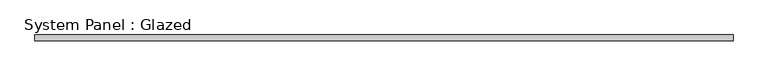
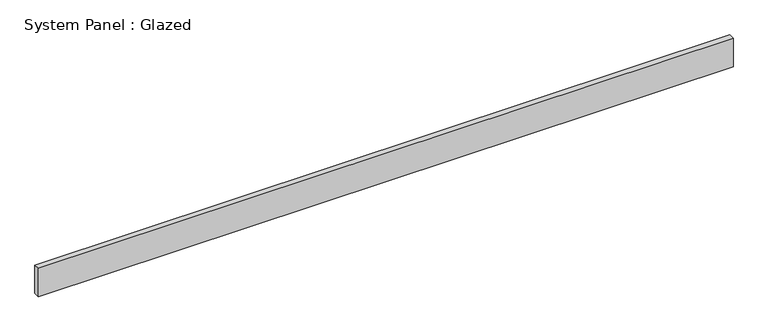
"""IFC4 building model written with IfcOpenShell, lengths in millimetres: plate geometry, System Panel : Glazed."""

import ifcopenshell
import ifcopenshell.guid

model = None  # the IFC model being written
_history = None  # IfcOwnerHistory: only IFC2X3 demands one
_inside = {}  # id of a spatial element -> (the spatial element, [elements in it])
_under = {}  # id of a project, library or spatial element -> (it, [spatial elements below it])
_declared = {}  # id of a project -> (the project, [libraries it declares])
_typed = {}  # id of a type object -> (the type object, [elements of that type])
_made_of = {}  # id of a material, layer set ... -> (it, [elements and type objects made of it])


def new_model(schema):
    """Start an empty IFC model of exactly this schema.

    Asked for "IFC4X3", IfcOpenShell would pick the latest addendum, in which some entities
    have other attributes; the version numbers below select the first issue.
    IFC2X3 requires an IfcOwnerHistory on every rooted entity: one is made here for all.
    """
    global model, _history
    if schema == "IFC4X3":
        model = ifcopenshell.file(schema_version=(4, 3, 0, 0))
    else:
        model = ifcopenshell.file(schema=schema)
    _inside.clear()
    _under.clear()
    _declared.clear()
    _typed.clear()
    _made_of.clear()
    _history = None
    if model.schema == "IFC2X3":
        org = make("IfcOrganization", Name="unknown")
        user = make(
            "IfcPersonAndOrganization",
            ThePerson=make("IfcPerson", FamilyName="unknown"),
            TheOrganization=org,
        )
        app = make(
            "IfcApplication",
            ApplicationDeveloper=org,
            Version="unknown",
            ApplicationFullName="unknown",
            ApplicationIdentifier="unknown",
        )
        _history = make(
            "IfcOwnerHistory",
            OwningUser=user,
            OwningApplication=app,
            ChangeAction="ADDED",
            CreationDate=0,
        )
    return model


def make(cls, **values):
    """One entity of the class cls with the attributes given. An attribute that is None is left unset."""
    return model.create_entity(
        cls, **{name: value for name, value in values.items() if value is not None}
    )


def rooted(cls, **values):
    """An entity with a GlobalId (a new one), such as an element, a storey or a relation."""
    return make(cls, GlobalId=ifcopenshell.guid.new(), OwnerHistory=_history, **values)


def si_unit(unit_type, name, prefix=None):
    """IfcSIUnit, for example si_unit("LENGTHUNIT", "METRE", prefix="MILLI")."""
    return make("IfcSIUnit", UnitType=unit_type, Prefix=prefix, Name=name)


def assignment(units):
    """IfcUnitAssignment: the units of a project."""
    return None if units is None else make("IfcUnitAssignment", Units=units)


def point(xyz):
    """IfcCartesianPoint."""
    return None if xyz is None else make("IfcCartesianPoint", Coordinates=xyz)


def direction(xyz):
    """IfcDirection."""
    return None if xyz is None else make("IfcDirection", DirectionRatios=xyz)


def frame(location, z_axis=None, x_axis=None):
    """IfcAxis2Placement3D, a coordinate frame: its origin and axes. An axis left out is left unset."""
    return make(
        "IfcAxis2Placement3D",
        Location=point(location),
        Axis=direction(z_axis),
        RefDirection=direction(x_axis),
    )


def origin():
    """The frame at (0, 0, 0) with its axes left unset."""
    return frame((0.0, 0.0, 0.0))


def origin_with_axes():
    """The frame at (0, 0, 0) with the z axis (0, 0, 1) and the x axis (1, 0, 0) written out."""
    return frame((0.0, 0.0, 0.0), z_axis=(0.0, 0.0, 1.0), x_axis=(1.0, 0.0, 0.0))


def place(relative_to, where):
    """IfcLocalPlacement: puts the frame where relative to a parent placement (None: the world)."""
    return make(
        "IfcLocalPlacement", PlacementRelTo=relative_to, RelativePlacement=where
    )


def context(
    kind, dimensions, precision=None, world=None, true_north=None, identifier=None
):
    """IfcGeometricRepresentationContext, for example the 3D "Model" context."""
    return make(
        "IfcGeometricRepresentationContext",
        ContextIdentifier=identifier,
        ContextType=kind,
        CoordinateSpaceDimension=dimensions,
        Precision=precision,
        WorldCoordinateSystem=world,
        TrueNorth=true_north,
    )


def project(units=None, contexts=None):
    """IfcProject with its units and contexts."""
    return rooted(
        "IfcProject",
        Name="project",
        RepresentationContexts=contexts,
        UnitsInContext=assignment(units),
    )


def spatial(cls, under=None, at=None, **own):
    """A site, building, storey or space (cls), placed at a placement, below another one or the project."""
    s = rooted(cls, ObjectPlacement=at, **own)
    if under is not None:
        _under.setdefault(under.id(), (under, []))[1].append(s)
    return s


def polyline(points):
    """IfcPolyline through the points."""
    return make("IfcPolyline", Points=[point(p) for p in points])


def outline(outer, holes=None, kind="AREA"):
    """IfcArbitraryClosedProfileDef: a profile drawn as a closed curve; with holes, ...WithVoids."""
    if holes is None:
        return make("IfcArbitraryClosedProfileDef", ProfileType=kind, OuterCurve=outer)
    return make(
        "IfcArbitraryProfileDefWithVoids",
        ProfileType=kind,
        OuterCurve=outer,
        InnerCurves=holes,
    )


def extrude(swept, where, along, depth):
    """IfcExtrudedAreaSolid: the profile swept, set in the frame where, extruded along a direction by depth."""
    return make(
        "IfcExtrudedAreaSolid",
        SweptArea=swept,
        Position=where,
        ExtrudedDirection=direction(along),
        Depth=depth,
    )


def shape(context_of_items, identifier, shape_type, items):
    """IfcShapeRepresentation: the items that make up one representation, for example the "Body"."""
    return make(
        "IfcShapeRepresentation",
        ContextOfItems=context_of_items,
        RepresentationIdentifier=identifier,
        RepresentationType=shape_type,
        Items=items,
    )


def source(mapping_origin, context_of_items, identifier, shape_type, items):
    """IfcRepresentationMap: a shape defined once, which mapped items show again and again."""
    return make(
        "IfcRepresentationMap",
        MappingOrigin=mapping_origin,
        MappedRepresentation=shape(context_of_items, identifier, shape_type, items),
    )


def transform(
    local_origin,
    x_axis=None,
    y_axis=None,
    z_axis=None,
    scale=None,
    scale2=None,
    scale3=None,
    uniform=True,
):
    """IfcCartesianTransformationOperator3D, or its non-uniform kind. x_axis, y_axis, z_axis: its Axis1, 2, 3."""
    if uniform:
        return make(
            "IfcCartesianTransformationOperator3D",
            Axis1=direction(x_axis),
            Axis2=direction(y_axis),
            LocalOrigin=point(local_origin),
            Scale=scale,
            Axis3=direction(z_axis),
        )
    return make(
        "IfcCartesianTransformationOperator3DnonUniform",
        Axis1=direction(x_axis),
        Axis2=direction(y_axis),
        LocalOrigin=point(local_origin),
        Scale=scale,
        Axis3=direction(z_axis),
        Scale2=scale2,
        Scale3=scale3,
    )


def mapped(mapping_source, mapping_target):
    """IfcMappedItem: shows the shape of a source again, moved by a transform."""
    return make(
        "IfcMappedItem", MappingSource=mapping_source, MappingTarget=mapping_target
    )


def made_of(thing, what):
    """Note that an element or type object is made of a material, layer set ...; save() writes the relation."""
    if what is not None:
        _made_of.setdefault(what.id(), (what, []))[1].append(thing)
    return thing


def element(
    cls,
    number,
    at=None,
    inside=None,
    cuts=None,
    type_object=None,
    material=None,
    context=None,
    identifier="Body",
    shape_type=None,
    held_by="IfcProductDefinitionShape",
    body=None,
    shapes=None,
    **own,
):
    """One element of the class cls, such as IfcWall. Its Tag is "e" and its number.

    at: its placement. inside: the storey or other place that contains it. cuts: it is an
    opening in that element (IfcRelVoidsElement). A single representation is given by context,
    identifier, shape_type and body (its items); several are given by shapes. held_by: the class
    of the entity that holds the representations. save() writes the other relations.
    """
    e = rooted(cls, Tag="e%d" % number, ObjectPlacement=at, **own)
    if body is not None:
        shapes = [shape(context, identifier, shape_type, body)]
    if shapes is not None:
        e.Representation = make(held_by, Representations=shapes)
    if inside is not None:
        _inside.setdefault(inside.id(), (inside, []))[1].append(e)
    if cuts is not None:
        rooted(
            "IfcRelVoidsElement", RelatingBuildingElement=cuts, RelatedOpeningElement=e
        )
    if type_object is not None:
        _typed.setdefault(type_object.id(), (type_object, []))[1].append(e)
    return made_of(e, material)


def aggregate(whole, parts):
    """IfcRelAggregates: a whole, such as a stair, and the parts it consists of."""
    return rooted("IfcRelAggregates", RelatingObject=whole, RelatedObjects=parts)


def save(model, path):
    """Write the relations noted so far, then the file.

    IfcRelAggregates (storeys below a building ...), IfcRelContainedInSpatialStructure (elements
    in a storey), IfcRelDefinesByType, IfcRelAssociatesMaterial and IfcRelDeclares: one each for
    every whole, place, type object, material and project.
    """
    for whole, parts in _under.values():
        aggregate(whole, parts)
    for where, things in _inside.values():
        rooted(
            "IfcRelContainedInSpatialStructure",
            RelatedElements=things,
            RelatingStructure=where,
        )
    for kind, things in _typed.values():
        rooted("IfcRelDefinesByType", RelatedObjects=things, RelatingType=kind)
    for what, things in _made_of.values():
        rooted("IfcRelAssociatesMaterial", RelatedObjects=things, RelatingMaterial=what)
    for by, libraries in _declared.values():
        rooted("IfcRelDeclares", RelatingContext=by, RelatedDefinitions=libraries)
    model.write(path)


def system_panel_glazed_ab925a11(model_context):
    return source(origin(), model_context, "Body", "SweptSolid", [
        extrude(outline(polyline([(1524.0, 19.05), (-1524.0, 19.05), (-1524.0, 44.45), (1524.0, 44.45), (1524.0, 19.05)])), origin_with_axes(), (0.0, 0.0, 1.0), 131.51448),
    ])


if __name__ == "__main__":
    model = new_model("IFC4")
    model_context = context("Model", 3, world=origin())
    ifc_project = project(units=[si_unit("LENGTHUNIT", "METRE", prefix="MILLI")], contexts=[model_context])
    site = spatial("IfcSite", under=ifc_project)
    building = spatial("IfcBuilding", under=site)
    placement = place(None, origin())
    system_panel_glazed_shape = system_panel_glazed_ab925a11(model_context)
    element("IfcPlate", 1, ObjectType="System Panel : Glazed", at=placement, inside=building, context=model_context, shape_type="MappedRepresentation", body=[
        mapped(system_panel_glazed_shape, transform((0.0, 0.0, 0.0), x_axis=(1.0, 0.0, 0.0), y_axis=(0.0, 1.0, 0.0), z_axis=(0.0, 0.0, 1.0))),
    ])
    save(model, "model.ifc")
